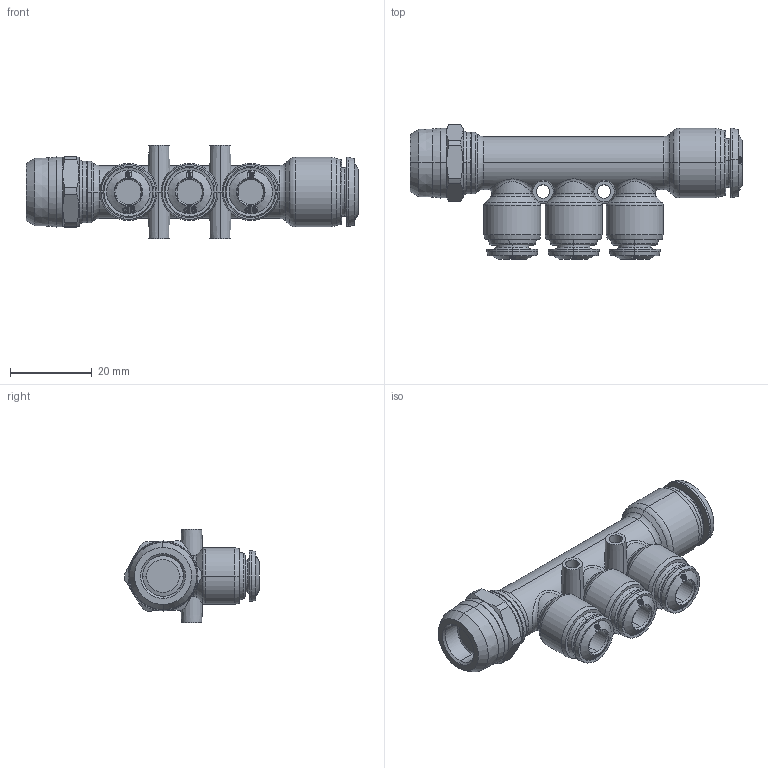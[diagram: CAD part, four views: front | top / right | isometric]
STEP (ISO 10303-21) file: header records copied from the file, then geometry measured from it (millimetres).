
FILE_DESCRIPTION (( 'STEP AP214' ), '1' );
FILE_NAME ('5536000008.step', '2012-10-02T17:49:29', ( '' ), ( '' ), 'SwSTEP 2.0', 'SolidWorks 2012', '' );
FILE_SCHEMA (( 'AUTOMOTIVE_DESIGN' ));
Length unit declared in the file: millimetre
Products named in the file (1): 5536000008
Bounding box: 81.4 x 33 x 23 mm (x, y, z)
Volume: 19207.7 mm3; surface area: 9037.8 mm2
Topology: 1 solids, 2 shells, 506 faces, 1254 edges, 794 vertices
Faces by surface type: bspline 199, cone 144, cylinder 69, torus 47, plane 47
Entity records: 34132 total; most frequent: CARTESIAN_POINT 18262, ORIENTED_EDGE 2508, DIRECTION 1494, EDGE_CURVE 1254, VERTEX_POINT 794, B_SPLINE_CURVE_WITH_KNOTS 718, AXIS2_PLACEMENT_3D 650, EDGE_LOOP 554
